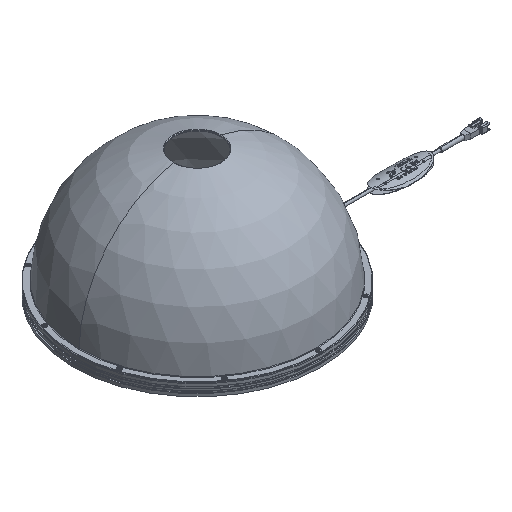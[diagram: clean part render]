
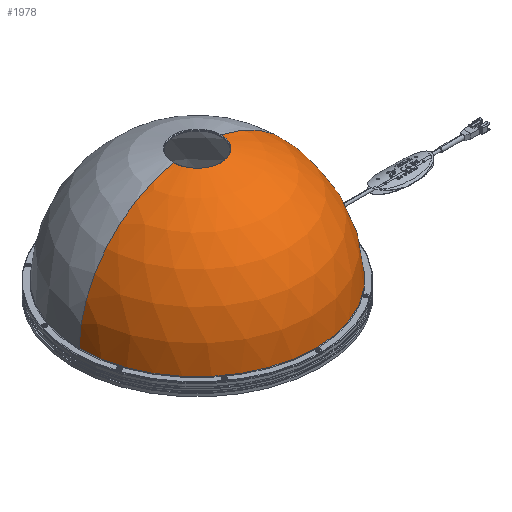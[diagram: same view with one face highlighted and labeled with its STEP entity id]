
A CAD part, isometric view. The second image highlights one B-rep face of the part: STEP entity #1978.
In plain terms, the highlighted spherical face has radius 126 mm.
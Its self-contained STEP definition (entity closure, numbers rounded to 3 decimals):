
#1978=ADVANCED_FACE('',(#3925),#3926,.T.);
#3925=FACE_OUTER_BOUND('',#6088,.T.);
#3926=SPHERICAL_SURFACE('',#6089,126.0);
#6088=EDGE_LOOP('',(#11335,#11336,#11337,#11338));
#6089=AXIS2_PLACEMENT_3D('',#11339,#11340,#11341);
#11335=ORIENTED_EDGE('',*,*,#14321,.T.);
#11336=ORIENTED_EDGE('',*,*,#14329,.T.);
#11337=ORIENTED_EDGE('',*,*,#14323,.T.);
#11338=ORIENTED_EDGE('',*,*,#14340,.F.);
#11339=CARTESIAN_POINT('',(0.,0.0,0.));
#11340=DIRECTION('',(0.,0.,1.0));
#11341=DIRECTION('',(1.0,0.,0.));
#14321=EDGE_CURVE('',#17766,#17767,#17768,.T.);
#14323=EDGE_CURVE('',#17771,#17769,#17772,.T.);
#14329=EDGE_CURVE('',#17767,#17771,#17780,.T.);
#14340=EDGE_CURVE('',#17766,#17769,#17793,.T.);
#17766=VERTEX_POINT('',#24539);
#17767=VERTEX_POINT('',#24540);
#17768=CIRCLE('',#24541,126.0);
#17769=VERTEX_POINT('',#24542);
#17771=VERTEX_POINT('',#24544);
#17772=CIRCLE('',#24545,126.0);
#17780=CIRCLE('',#24553,125.984);
#17793=CIRCLE('',#24568,25.49);
#24539=CARTESIAN_POINT('',(-25.49,0.,123.395));
#24540=CARTESIAN_POINT('',(-125.984,0.,1.992));
#24541=AXIS2_PLACEMENT_3D('',#27165,#27166,#27167);
#24542=CARTESIAN_POINT('',(25.49,0.0,123.395));
#24544=CARTESIAN_POINT('',(125.984,0.0,1.992));
#24545=AXIS2_PLACEMENT_3D('',#27171,#27172,#27173);
#24553=AXIS2_PLACEMENT_3D('',#27186,#27187,#27188);
#24568=AXIS2_PLACEMENT_3D('',#27203,#27204,#27205);
#27165=CARTESIAN_POINT('',(0.,0.,0.));
#27166=DIRECTION('',(0.,-1.0,0.));
#27167=DIRECTION('',(0.0,0.,1.0));
#27171=CARTESIAN_POINT('',(0.0,0.0,0.0));
#27172=DIRECTION('',(0.0,-1.0,0.0));
#27173=DIRECTION('',(1.,0.0,0.016));
#27186=CARTESIAN_POINT('',(0.0,0.0,1.992));
#27187=DIRECTION('',(0.0,0.0,1.0));
#27188=DIRECTION('',(1.0,0.0,0.0));
#27203=CARTESIAN_POINT('',(0.,0.,123.395));
#27204=DIRECTION('',(0.,0.,1.0));
#27205=DIRECTION('',(-1.0,0.,0.));
